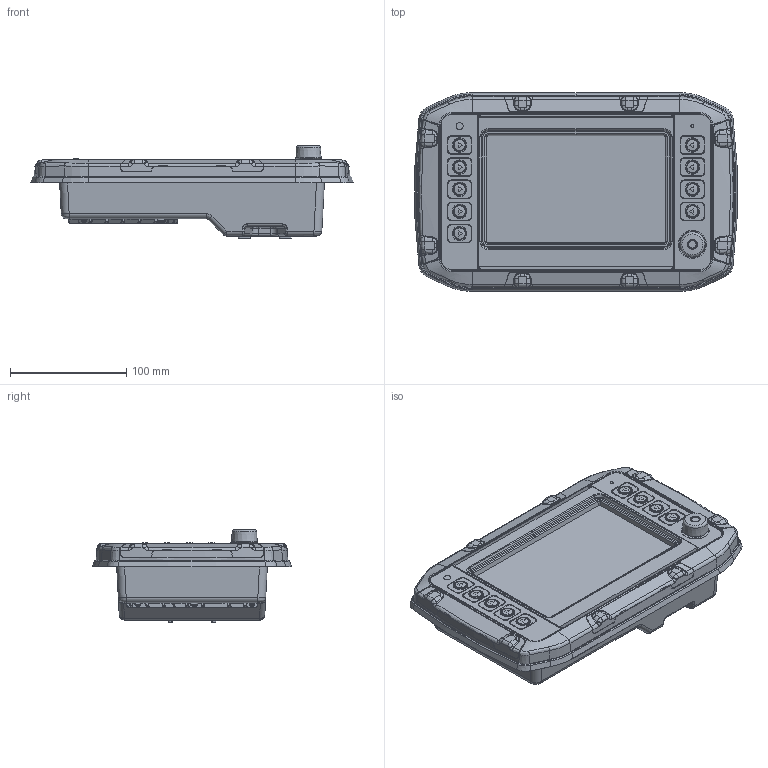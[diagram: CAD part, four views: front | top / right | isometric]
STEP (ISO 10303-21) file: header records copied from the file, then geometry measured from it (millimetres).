
FILE_DESCRIPTION (( 'STEP AP214' ), '1' );
FILE_NAME ('M870-Block Model.STEP', '2016-09-23T07:54:12', ( '' ), ( '' ), 'SwSTEP 2.0', 'SolidWorks 2016', '' );
FILE_SCHEMA (( 'AUTOMOTIVE_DESIGN' ));
Length unit declared in the file: millimetre
Products named in the file (1): M870-Block Model
Bounding box: 276.89 x 170.76 x 79.91 mm (x, y, z)
Volume: 1731573.4 mm3; surface area: 152938.4 mm2
Topology: 1 solids, 1 shells, 3151 faces, 7669 edges, 4583 vertices
Faces by surface type: bspline 966, cylinder 817, plane 794, cone 270, torus 266, sphere 38
Full cylindrical faces by diameter (mm): 2.5 x1, 4.2 x4, 6 x1, 10.4 x9, 12 x11, 19.404 x1
Entity records: 117366 total; most frequent: CARTESIAN_POINT 51858, ORIENTED_EDGE 15156, DIRECTION 11793, EDGE_CURVE 7578, VERTEX_POINT 4564, AXIS2_PLACEMENT_3D 4548, EDGE_LOOP 3286, FACE_OUTER_BOUND 3205
